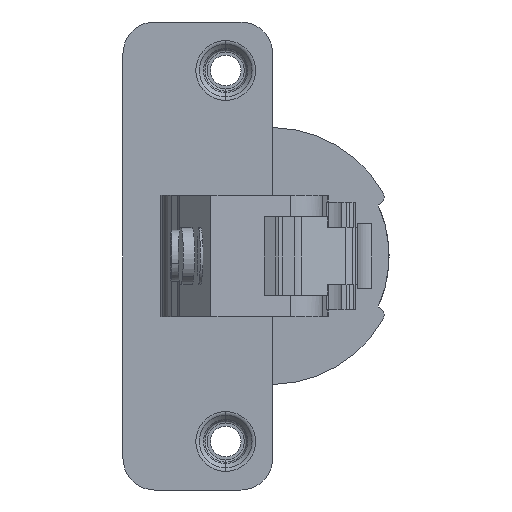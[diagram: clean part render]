
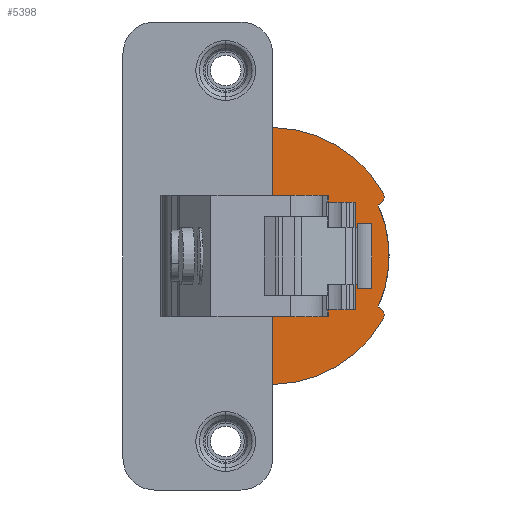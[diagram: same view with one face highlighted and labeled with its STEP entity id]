
A CAD part, left-side view. The second image highlights one B-rep face of the part: STEP entity #5398.
In plain terms, the highlighted planar face has unit normal (-1, 0, 0).
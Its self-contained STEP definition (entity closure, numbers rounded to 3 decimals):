
#67 = DIRECTION ( 'NONE',  ( 0., 0., -1. ) ) ;
#69 = VERTEX_POINT ( 'NONE', #1231 ) ;
#179 = CARTESIAN_POINT ( 'NONE',  ( -8.3, -19.903, 17.998 ) ) ;
#202 = FACE_BOUND ( 'NONE', #5280, .T. ) ;
#230 = ORIENTED_EDGE ( 'NONE', *, *, #3158, .T. ) ;
#236 = CARTESIAN_POINT ( 'NONE',  ( -8.3, -34.628, -7.154 ) ) ;
#249 = EDGE_CURVE ( 'NONE', #69, #2486, #2557, .T. ) ;
#271 = LINE ( 'NONE', #5485, #977 ) ;
#293 = CARTESIAN_POINT ( 'NONE',  ( -8.3, -21.271, 0. ) ) ;
#331 = DIRECTION ( 'NONE',  ( -1., 0., 0. ) ) ;
#344 = ORIENTED_EDGE ( 'NONE', *, *, #1593, .T. ) ;
#361 = CARTESIAN_POINT ( 'NONE',  ( -8.3, -31.783, 4.5 ) ) ;
#394 = EDGE_CURVE ( 'NONE', #5245, #7356, #5773, .T. ) ;
#415 = CARTESIAN_POINT ( 'NONE',  ( -8.3, -21.271, 5.55 ) ) ;
#585 = EDGE_CURVE ( 'NONE', #3504, #69, #271, .T. ) ;
#598 = LINE ( 'NONE', #3544, #6779 ) ;
#644 = CARTESIAN_POINT ( 'NONE',  ( -8.3, -19.867, -17.998 ) ) ;
#655 = AXIS2_PLACEMENT_3D ( 'NONE', #2172, #5662, #5707 ) ;
#962 = CARTESIAN_POINT ( 'NONE',  ( -8.3, -19.867, -5.55 ) ) ;
#977 = VECTOR ( 'NONE', #1993, 1000. ) ;
#1022 = EDGE_CURVE ( 'NONE', #1832, #1286, #6627, .T. ) ;
#1125 = VERTEX_POINT ( 'NONE', #5907 ) ;
#1231 = CARTESIAN_POINT ( 'NONE',  ( -8.3, -19.867, 17.998 ) ) ;
#1233 = DIRECTION ( 'NONE',  ( 0., 0., 1. ) ) ;
#1258 = CIRCLE ( 'NONE', #5637, 17.4 ) ;
#1286 = VERTEX_POINT ( 'NONE', #2409 ) ;
#1398 = ORIENTED_EDGE ( 'NONE', *, *, #249, .F. ) ;
#1507 = CIRCLE ( 'NONE', #3388, 18. ) ;
#1527 = CIRCLE ( 'NONE', #2515, 18. ) ;
#1551 = DIRECTION ( 'NONE',  ( 0., 0., 1. ) ) ;
#1593 = EDGE_CURVE ( 'NONE', #7717, #2486, #1507, .T. ) ;
#1599 = ORIENTED_EDGE ( 'NONE', *, *, #4192, .T. ) ;
#1666 = EDGE_CURVE ( 'NONE', #3504, #4792, #598, .T. ) ;
#1693 = ORIENTED_EDGE ( 'NONE', *, *, #2070, .F. ) ;
#1832 = VERTEX_POINT ( 'NONE', #236 ) ;
#1883 = VECTOR ( 'NONE', #3844, 1000. ) ;
#1895 = CARTESIAN_POINT ( 'NONE',  ( -8.3, -33.751, -4.5 ) ) ;
#1944 = EDGE_CURVE ( 'NONE', #6222, #1832, #1258, .T. ) ;
#1993 = DIRECTION ( 'NONE',  ( 0., 0., 1. ) ) ;
#2028 = VECTOR ( 'NONE', #3500, 1000. ) ;
#2070 = EDGE_CURVE ( 'NONE', #5245, #5070, #2076, .T. ) ;
#2076 = LINE ( 'NONE', #3725, #1883 ) ;
#2128 = CARTESIAN_POINT ( 'NONE',  ( -8.3, -31.783, -5.75 ) ) ;
#2166 = DIRECTION ( 'NONE',  ( 0., 0., 1. ) ) ;
#2172 = CARTESIAN_POINT ( 'NONE',  ( -8.3, -19.667, 0. ) ) ;
#2309 = CARTESIAN_POINT ( 'NONE',  ( -8.3, -34.273, -8.3 ) ) ;
#2357 = CARTESIAN_POINT ( 'NONE',  ( -8.3, -19.667, -5.55 ) ) ;
#2409 = CARTESIAN_POINT ( 'NONE',  ( -8.3, -35.317, -8.893 ) ) ;
#2486 = VERTEX_POINT ( 'NONE', #179 ) ;
#2512 = VERTEX_POINT ( 'NONE', #6978 ) ;
#2515 = AXIS2_PLACEMENT_3D ( 'NONE', #4319, #6882, #3854 ) ;
#2557 = LINE ( 'NONE', #7357, #4720 ) ;
#2627 = CARTESIAN_POINT ( 'NONE',  ( -8.3, -19.867, 5.55 ) ) ;
#2687 = DIRECTION ( 'NONE',  ( 0., 0., -1. ) ) ;
#2709 = VERTEX_POINT ( 'NONE', #644 ) ;
#2717 = CARTESIAN_POINT ( 'NONE',  ( -8.3, -18.767, 0. ) ) ;
#2755 = FACE_OUTER_BOUND ( 'NONE', #4196, .T. ) ;
#2775 = EDGE_CURVE ( 'NONE', #2512, #7356, #3589, .T. ) ;
#2838 = ORIENTED_EDGE ( 'NONE', *, *, #7064, .F. ) ;
#2926 = CARTESIAN_POINT ( 'NONE',  ( -8.3, -19.667, -17.998 ) ) ;
#2992 = VERTEX_POINT ( 'NONE', #962 ) ;
#3013 = DIRECTION ( 'NONE',  ( 1., 0., 0. ) ) ;
#3025 = CARTESIAN_POINT ( 'NONE',  ( -8.3, -33.751, -5.75 ) ) ;
#3148 = VECTOR ( 'NONE', #6636, 1000. ) ;
#3152 = LINE ( 'NONE', #293, #7453 ) ;
#3158 = EDGE_CURVE ( 'NONE', #1125, #2992, #3542, .T. ) ;
#3388 = AXIS2_PLACEMENT_3D ( 'NONE', #5713, #331, #1551 ) ;
#3451 = ORIENTED_EDGE ( 'NONE', *, *, #585, .F. ) ;
#3500 = DIRECTION ( 'NONE',  ( 0., 1., 0. ) ) ;
#3504 = VERTEX_POINT ( 'NONE', #2627 ) ;
#3542 = LINE ( 'NONE', #2357, #2028 ) ;
#3544 = CARTESIAN_POINT ( 'NONE',  ( -8.3, -19.667, 5.55 ) ) ;
#3589 = LINE ( 'NONE', #6016, #4271 ) ;
#3725 = CARTESIAN_POINT ( 'NONE',  ( -8.3, -19.667, -4.5 ) ) ;
#3844 = DIRECTION ( 'NONE',  ( 0., -1., 0. ) ) ;
#3854 = DIRECTION ( 'NONE',  ( 0., 0., 1. ) ) ;
#3919 = VECTOR ( 'NONE', #4182, 1000. ) ;
#4134 = LINE ( 'NONE', #7678, #7211 ) ;
#4153 = DIRECTION ( 'NONE',  ( 0., 0., 1. ) ) ;
#4182 = DIRECTION ( 'NONE',  ( 0., 1., 0. ) ) ;
#4192 = EDGE_CURVE ( 'NONE', #2512, #5070, #7777, .T. ) ;
#4196 = EDGE_LOOP ( 'NONE', ( #2838, #6477, #5506, #6403, #6417, #4305, #344, #1398, #3451, #6036, #5822, #230 ) ) ;
#4197 = CARTESIAN_POINT ( 'NONE',  ( -8.3, -34.273, 8.3 ) ) ;
#4271 = VECTOR ( 'NONE', #5268, 1000. ) ;
#4305 = ORIENTED_EDGE ( 'NONE', *, *, #5696, .F. ) ;
#4319 = CARTESIAN_POINT ( 'NONE',  ( -8.3, -19.667, 0. ) ) ;
#4344 = EDGE_CURVE ( 'NONE', #6745, #1286, #1527, .T. ) ;
#4468 = CARTESIAN_POINT ( 'NONE',  ( -8.3, -31.783, -4.5 ) ) ;
#4478 = DIRECTION ( 'NONE',  ( 1., 0., 0. ) ) ;
#4581 = CARTESIAN_POINT ( 'NONE',  ( -8.3, -35.317, 8.893 ) ) ;
#4720 = VECTOR ( 'NONE', #6213, 1000. ) ;
#4767 = LINE ( 'NONE', #2926, #3919 ) ;
#4792 = VERTEX_POINT ( 'NONE', #415 ) ;
#4841 = DIRECTION ( 'NONE',  ( 0., -1., 0. ) ) ;
#4900 = DIRECTION ( 'NONE',  ( 1., 0., 0. ) ) ;
#4942 = EDGE_CURVE ( 'NONE', #6745, #2709, #4767, .T. ) ;
#4973 = VECTOR ( 'NONE', #7664, 1000. ) ;
#5070 = VERTEX_POINT ( 'NONE', #1895 ) ;
#5175 = CIRCLE ( 'NONE', #6048, 1.2 ) ;
#5245 = VERTEX_POINT ( 'NONE', #4468 ) ;
#5268 = DIRECTION ( 'NONE',  ( 0., 1., 0. ) ) ;
#5280 = EDGE_LOOP ( 'NONE', ( #6739, #5687, #1599, #1693 ) ) ;
#5398 = ADVANCED_FACE ( 'NONE', ( #2755, #202 ), #7442, .T. ) ;
#5485 = CARTESIAN_POINT ( 'NONE',  ( -8.3, -19.867, 0. ) ) ;
#5506 = ORIENTED_EDGE ( 'NONE', *, *, #4344, .T. ) ;
#5637 = AXIS2_PLACEMENT_3D ( 'NONE', #2717, #4478, #2166 ) ;
#5662 = DIRECTION ( 'NONE',  ( -1., 0., 0. ) ) ;
#5687 = ORIENTED_EDGE ( 'NONE', *, *, #2775, .F. ) ;
#5696 = EDGE_CURVE ( 'NONE', #7717, #6222, #5175, .T. ) ;
#5707 = DIRECTION ( 'NONE',  ( 0., 0., 1. ) ) ;
#5713 = CARTESIAN_POINT ( 'NONE',  ( -8.3, -19.667, 0. ) ) ;
#5773 = LINE ( 'NONE', #2128, #4973 ) ;
#5822 = ORIENTED_EDGE ( 'NONE', *, *, #6287, .T. ) ;
#5907 = CARTESIAN_POINT ( 'NONE',  ( -8.3, -21.271, -5.55 ) ) ;
#6016 = CARTESIAN_POINT ( 'NONE',  ( -8.3, -19.667, 4.5 ) ) ;
#6036 = ORIENTED_EDGE ( 'NONE', *, *, #1666, .T. ) ;
#6048 = AXIS2_PLACEMENT_3D ( 'NONE', #4197, #4900, #67 ) ;
#6213 = DIRECTION ( 'NONE',  ( 0., -1., 0. ) ) ;
#6222 = VERTEX_POINT ( 'NONE', #6858 ) ;
#6285 = CARTESIAN_POINT ( 'NONE',  ( -8.3, -19.903, -17.998 ) ) ;
#6287 = EDGE_CURVE ( 'NONE', #4792, #1125, #3152, .T. ) ;
#6403 = ORIENTED_EDGE ( 'NONE', *, *, #1022, .F. ) ;
#6417 = ORIENTED_EDGE ( 'NONE', *, *, #1944, .F. ) ;
#6477 = ORIENTED_EDGE ( 'NONE', *, *, #4942, .F. ) ;
#6627 = CIRCLE ( 'NONE', #7765, 1.2 ) ;
#6636 = DIRECTION ( 'NONE',  ( 0., 0., -1. ) ) ;
#6739 = ORIENTED_EDGE ( 'NONE', *, *, #394, .T. ) ;
#6745 = VERTEX_POINT ( 'NONE', #6285 ) ;
#6779 = VECTOR ( 'NONE', #4841, 1000. ) ;
#6858 = CARTESIAN_POINT ( 'NONE',  ( -8.3, -34.628, 7.154 ) ) ;
#6882 = DIRECTION ( 'NONE',  ( -1., 0., 0. ) ) ;
#6978 = CARTESIAN_POINT ( 'NONE',  ( -8.3, -33.751, 4.5 ) ) ;
#7064 = EDGE_CURVE ( 'NONE', #2709, #2992, #4134, .T. ) ;
#7211 = VECTOR ( 'NONE', #1233, 1000. ) ;
#7356 = VERTEX_POINT ( 'NONE', #361 ) ;
#7357 = CARTESIAN_POINT ( 'NONE',  ( -8.3, -19.667, 17.998 ) ) ;
#7442 = PLANE ( 'NONE',  #655 ) ;
#7453 = VECTOR ( 'NONE', #2687, 1000. ) ;
#7664 = DIRECTION ( 'NONE',  ( 0., 0., 1. ) ) ;
#7678 = CARTESIAN_POINT ( 'NONE',  ( -8.3, -19.867, 0. ) ) ;
#7717 = VERTEX_POINT ( 'NONE', #4581 ) ;
#7765 = AXIS2_PLACEMENT_3D ( 'NONE', #2309, #3013, #4153 ) ;
#7777 = LINE ( 'NONE', #3025, #3148 ) ;
